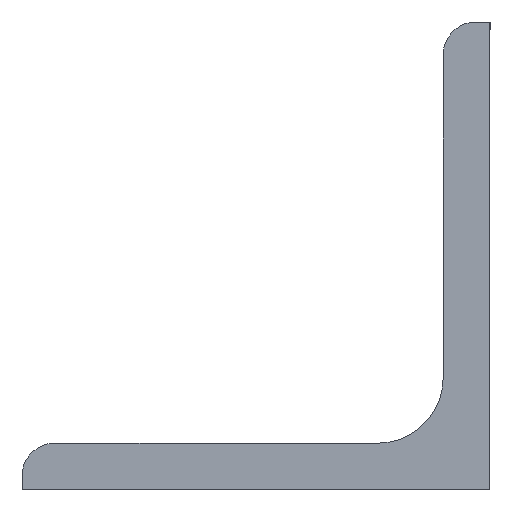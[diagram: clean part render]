
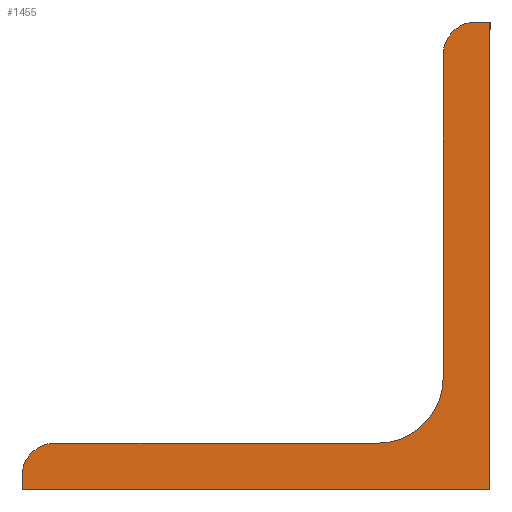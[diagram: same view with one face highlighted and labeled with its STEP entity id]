
A CAD part, left-side view. The second image highlights one B-rep face of the part: STEP entity #1455.
In plain terms, the highlighted planar face has unit normal (-1, 0, 0).
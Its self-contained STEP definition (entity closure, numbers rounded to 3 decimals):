
#74 = DIRECTION ( 'NONE',  ( 0., 0., 1. ) ) ;
#181 = CARTESIAN_POINT ( 'NONE',  ( 1324.967, -39., 2436.5 ) ) ;
#188 = AXIS2_PLACEMENT_3D ( 'NONE', #1476, #2556, #818 ) ;
#196 = EDGE_CURVE ( 'NONE', #2706, #2220, #2752, .T. ) ;
#231 = CARTESIAN_POINT ( 'NONE',  ( 1324.967, 9.5, 2390. ) ) ;
#310 = CARTESIAN_POINT ( 'NONE',  ( 1324.967, -35.5, 2402. ) ) ;
#315 = EDGE_LOOP ( 'NONE', ( #507, #1291, #662, #658, #740, #2736, #1615, #2541, #1839 ) ) ;
#332 = CARTESIAN_POINT ( 'NONE',  ( 1324.967, -40.5, 2390. ) ) ;
#335 = EDGE_CURVE ( 'NONE', #2220, #678, #1374, .T. ) ;
#354 = EDGE_CURVE ( 'NONE', #678, #590, #2376, .T. ) ;
#390 = FACE_OUTER_BOUND ( 'NONE', #315, .T. ) ;
#507 = ORIENTED_EDGE ( 'NONE', *, *, #196, .F. ) ;
#538 = VECTOR ( 'NONE', #1427, 1000. ) ;
#577 = CARTESIAN_POINT ( 'NONE',  ( 1324.967, -28.5, 2395. ) ) ;
#590 = VERTEX_POINT ( 'NONE', #2119 ) ;
#613 = DIRECTION ( 'NONE',  ( 1., 0., 0. ) ) ;
#658 = ORIENTED_EDGE ( 'NONE', *, *, #2584, .F. ) ;
#662 = ORIENTED_EDGE ( 'NONE', *, *, #1490, .F. ) ;
#675 = CIRCLE ( 'NONE', #1196, 7. ) ;
#678 = VERTEX_POINT ( 'NONE', #962 ) ;
#740 = ORIENTED_EDGE ( 'NONE', *, *, #1047, .F. ) ;
#766 = CARTESIAN_POINT ( 'NONE',  ( 1324.967, -35.5, 2436.5 ) ) ;
#798 = LINE ( 'NONE', #1187, #538 ) ;
#818 = DIRECTION ( 'NONE',  ( 0., 0., -1. ) ) ;
#845 = DIRECTION ( 'NONE',  ( 0., -1., 0. ) ) ;
#913 = VERTEX_POINT ( 'NONE', #766 ) ;
#932 = EDGE_CURVE ( 'NONE', #2017, #1747, #2663, .T. ) ;
#942 = CARTESIAN_POINT ( 'NONE',  ( 1324.967, -39., 2440. ) ) ;
#952 = EDGE_CURVE ( 'NONE', #590, #2017, #1118, .T. ) ;
#962 = CARTESIAN_POINT ( 'NONE',  ( 1324.967, 9.5, 2390. ) ) ;
#964 = CARTESIAN_POINT ( 'NONE',  ( 1324.967, -40.5, 2390. ) ) ;
#1040 = LINE ( 'NONE', #2754, #2551 ) ;
#1047 = EDGE_CURVE ( 'NONE', #1747, #1117, #675, .T. ) ;
#1117 = VERTEX_POINT ( 'NONE', #310 ) ;
#1118 = CIRCLE ( 'NONE', #1827, 3.5 ) ;
#1187 = CARTESIAN_POINT ( 'NONE',  ( 1324.967, -35.5, 2402. ) ) ;
#1196 = AXIS2_PLACEMENT_3D ( 'NONE', #1743, #2213, #74 ) ;
#1198 = DIRECTION ( 'NONE',  ( 1., 0., 0. ) ) ;
#1232 = PLANE ( 'NONE',  #1971 ) ;
#1291 = ORIENTED_EDGE ( 'NONE', *, *, #1474, .F. ) ;
#1345 = CARTESIAN_POINT ( 'NONE',  ( 1324.967, 6., 2395. ) ) ;
#1374 = LINE ( 'NONE', #332, #1921 ) ;
#1415 = VECTOR ( 'NONE', #2587, 1000. ) ;
#1427 = DIRECTION ( 'NONE',  ( 0., 0., 1. ) ) ;
#1445 = DIRECTION ( 'NONE',  ( 0., 0., -1. ) ) ;
#1455 = ADVANCED_FACE ( 'NONE', ( #390 ), #1232, .F. ) ;
#1474 = EDGE_CURVE ( 'NONE', #1659, #2706, #1040, .T. ) ;
#1476 = CARTESIAN_POINT ( 'NONE',  ( 1324.967, -39., 2436.5 ) ) ;
#1490 = EDGE_CURVE ( 'NONE', #913, #1659, #2408, .T. ) ;
#1615 = ORIENTED_EDGE ( 'NONE', *, *, #952, .F. ) ;
#1659 = VERTEX_POINT ( 'NONE', #942 ) ;
#1669 = VECTOR ( 'NONE', #2256, 1000. ) ;
#1743 = CARTESIAN_POINT ( 'NONE',  ( 1324.967, -28.5, 2402. ) ) ;
#1747 = VERTEX_POINT ( 'NONE', #577 ) ;
#1827 = AXIS2_PLACEMENT_3D ( 'NONE', #2492, #1198, #2016 ) ;
#1839 = ORIENTED_EDGE ( 'NONE', *, *, #335, .F. ) ;
#1920 = CARTESIAN_POINT ( 'NONE',  ( 1324.967, -40.5, 2390. ) ) ;
#1921 = VECTOR ( 'NONE', #2745, 1000. ) ;
#1967 = VECTOR ( 'NONE', #2767, 1000. ) ;
#1971 = AXIS2_PLACEMENT_3D ( 'NONE', #181, #613, #1445 ) ;
#2016 = DIRECTION ( 'NONE',  ( 0., 0., -1. ) ) ;
#2017 = VERTEX_POINT ( 'NONE', #1345 ) ;
#2044 = CARTESIAN_POINT ( 'NONE',  ( 1324.967, -28.5, 2395. ) ) ;
#2119 = CARTESIAN_POINT ( 'NONE',  ( 1324.967, 9.5, 2391.5 ) ) ;
#2213 = DIRECTION ( 'NONE',  ( -1., 0., 0. ) ) ;
#2220 = VERTEX_POINT ( 'NONE', #964 ) ;
#2221 = CARTESIAN_POINT ( 'NONE',  ( 1324.967, -40.5, 2440. ) ) ;
#2256 = DIRECTION ( 'NONE',  ( 0., -1., 0. ) ) ;
#2376 = LINE ( 'NONE', #231, #1415 ) ;
#2408 = CIRCLE ( 'NONE', #188, 3.5 ) ;
#2492 = CARTESIAN_POINT ( 'NONE',  ( 1324.967, 6., 2391.5 ) ) ;
#2541 = ORIENTED_EDGE ( 'NONE', *, *, #354, .F. ) ;
#2551 = VECTOR ( 'NONE', #845, 1000. ) ;
#2556 = DIRECTION ( 'NONE',  ( 1., 0., 0. ) ) ;
#2584 = EDGE_CURVE ( 'NONE', #1117, #913, #798, .T. ) ;
#2587 = DIRECTION ( 'NONE',  ( 0., 0., 1. ) ) ;
#2663 = LINE ( 'NONE', #2044, #1669 ) ;
#2706 = VERTEX_POINT ( 'NONE', #2221 ) ;
#2736 = ORIENTED_EDGE ( 'NONE', *, *, #932, .F. ) ;
#2745 = DIRECTION ( 'NONE',  ( 0., 1., 0. ) ) ;
#2752 = LINE ( 'NONE', #1920, #1967 ) ;
#2754 = CARTESIAN_POINT ( 'NONE',  ( 1324.967, -40.5, 2440. ) ) ;
#2767 = DIRECTION ( 'NONE',  ( 0., 0., -1. ) ) ;
